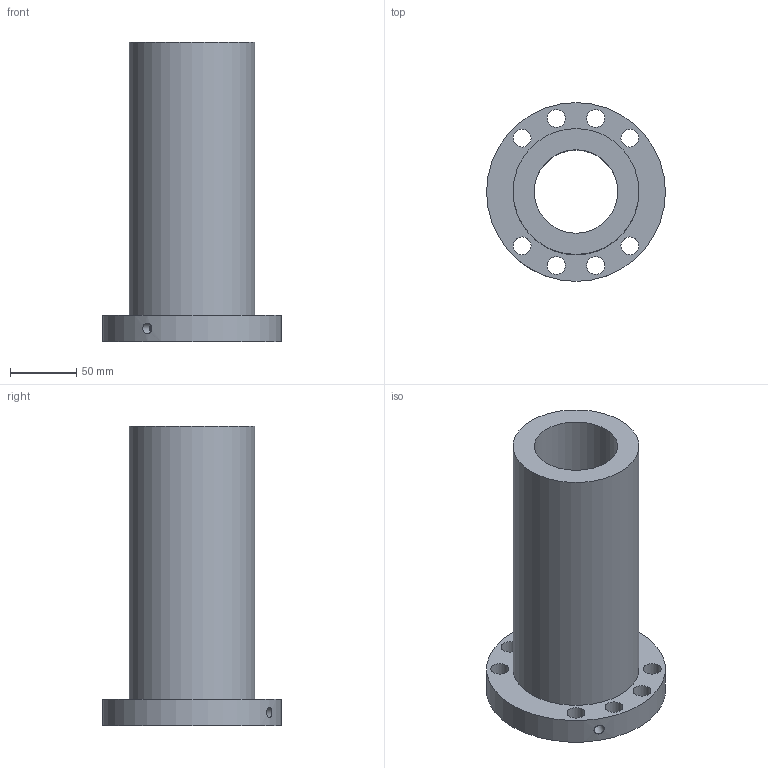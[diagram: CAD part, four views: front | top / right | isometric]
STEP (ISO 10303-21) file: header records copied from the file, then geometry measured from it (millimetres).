
FILE_DESCRIPTION(/* description */ (''),/* implementation_level */ '2;1');
FILE_NAME(/* name */ '63-40K2_635',/* time_stamp */ '2007-10-15T12:53:53+08:00',/* author */ (''),/* organization */ (''),/* preprocessor_version */ 'ST-DEVELOPER v11',/* originating_system */ 'UGS - NX 5.0',/* authorisation */ '');
FILE_SCHEMA (('CONFIG_CONTROL_DESIGN'));
Length unit declared in the file: millimetre
Products named in the file (1): 63-40K2_635
Bounding box: 135 x 135 x 226 mm (x, y, z)
Volume: 1017814.4 mm3; surface area: 142266.9 mm2
Topology: 1 solids, 1 shells, 17 faces, 40 edges, 27 vertices
Faces by surface type: cylinder 13, plane 4
Full cylindrical faces by diameter (mm): 6 x1, 8 x1, 13.5 x8, 63 x1, 95 x1, 135 x1
Entity records: 668 total; most frequent: CARTESIAN_POINT 184, DIRECTION 84, FACE_BOUND 52, EDGE_LOOP 52, ORIENTED_EDGE 52, AXIS2_PLACEMENT_3D 42, VERTEX_POINT 26, EDGE_CURVE 26
